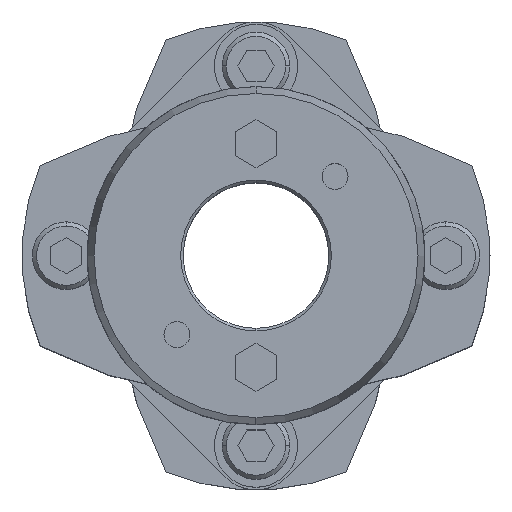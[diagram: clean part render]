
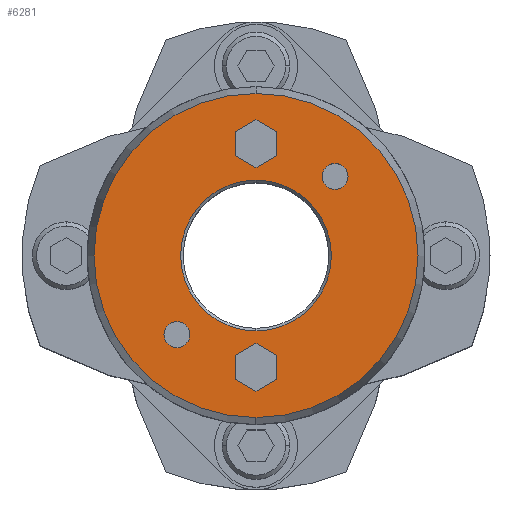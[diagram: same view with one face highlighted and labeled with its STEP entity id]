
A CAD part, top view. The second image highlights one B-rep face of the part: STEP entity #6281.
In plain terms, the highlighted planar face has unit normal (0, 0, 1).
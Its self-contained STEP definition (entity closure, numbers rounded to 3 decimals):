
#1677=CARTESIAN_POINT('',(0.,14.5,52.0));
#1678=VERTEX_POINT('',#1677);
#1694=CARTESIAN_POINT('',(0.,-14.5,52.0));
#1695=VERTEX_POINT('',#1694);
#1702=CARTESIAN_POINT('',(0.,0.,52.0));
#1703=DIRECTION('',(0.0,0.0,1.0));
#1704=DIRECTION('',(0.0,1.0,0.0));
#1705=AXIS2_PLACEMENT_3D('',#1702,#1703,#1704);
#1706=CIRCLE('',#1705,14.5);
#1707=EDGE_CURVE('',#1695,#1678,#1706,.T.);
#1823=CARTESIAN_POINT('',(0.,-31.16,52.0));
#1824=VERTEX_POINT('',#1823);
#1833=CARTESIAN_POINT('',(0.,31.16,52.0));
#1834=VERTEX_POINT('',#1833);
#1835=CARTESIAN_POINT('',(0.,0.,52.0));
#1836=DIRECTION('',(0.0,0.0,-1.0));
#1837=DIRECTION('',(0.0,-1.0,0.0));
#1838=AXIS2_PLACEMENT_3D('',#1835,#1836,#1837);
#1839=CIRCLE('',#1838,31.16);
#1840=EDGE_CURVE('',#1824,#1834,#1839,.T.);
#2157=CARTESIAN_POINT('',(15.203,17.703,52.0));
#2158=VERTEX_POINT('',#2157);
#2174=CARTESIAN_POINT('',(15.203,12.703,52.0));
#2175=VERTEX_POINT('',#2174);
#2182=CARTESIAN_POINT('',(15.203,15.203,52.0));
#2183=DIRECTION('',(0.0,0.0,-1.0));
#2184=DIRECTION('',(0.0,1.0,0.0));
#2185=AXIS2_PLACEMENT_3D('',#2182,#2183,#2184);
#2186=CIRCLE('',#2185,2.5);
#2187=EDGE_CURVE('',#2158,#2175,#2186,.T.);
#2199=CARTESIAN_POINT('',(-15.203,-12.703,52.0));
#2200=VERTEX_POINT('',#2199);
#2216=CARTESIAN_POINT('',(-15.203,-17.703,52.0));
#2217=VERTEX_POINT('',#2216);
#2224=CARTESIAN_POINT('',(-15.203,-15.203,52.0));
#2225=DIRECTION('',(0.0,0.0,-1.0));
#2226=DIRECTION('',(0.0,1.0,0.0));
#2227=AXIS2_PLACEMENT_3D('',#2224,#2225,#2226);
#2228=CIRCLE('',#2227,2.5);
#2229=EDGE_CURVE('',#2200,#2217,#2228,.T.);
#4887=CARTESIAN_POINT('',(0.,-16.881,52.0));
#4888=VERTEX_POINT('',#4887);
#4895=CARTESIAN_POINT('',(-4.,-19.191,52.0));
#4896=VERTEX_POINT('',#4895);
#4897=CARTESIAN_POINT('',(-4.,-19.191,52.0));
#4898=DIRECTION('',(0.866,0.5,0.0));
#4899=VECTOR('',#4898,4.619);
#4900=LINE('',#4897,#4899);
#4901=EDGE_CURVE('',#4896,#4888,#4900,.T.);
#4925=CARTESIAN_POINT('',(4.,-19.191,52.0));
#4926=VERTEX_POINT('',#4925);
#4933=CARTESIAN_POINT('',(0.,-16.881,52.0));
#4934=DIRECTION('',(0.866,-0.5,0.0));
#4935=VECTOR('',#4934,4.619);
#4936=LINE('',#4933,#4935);
#4937=EDGE_CURVE('',#4888,#4926,#4936,.T.);
#4956=CARTESIAN_POINT('',(4.,-23.809,52.0));
#4957=VERTEX_POINT('',#4956);
#4964=CARTESIAN_POINT('',(4.,-19.191,52.0));
#4965=DIRECTION('',(0.0,-1.0,0.0));
#4966=VECTOR('',#4965,4.619);
#4967=LINE('',#4964,#4966);
#4968=EDGE_CURVE('',#4926,#4957,#4967,.T.);
#4987=CARTESIAN_POINT('',(0.,-26.119,52.0));
#4988=VERTEX_POINT('',#4987);
#4995=CARTESIAN_POINT('',(4.,-23.809,52.0));
#4996=DIRECTION('',(-0.866,-0.5,0.0));
#4997=VECTOR('',#4996,4.619);
#4998=LINE('',#4995,#4997);
#4999=EDGE_CURVE('',#4957,#4988,#4998,.T.);
#5018=CARTESIAN_POINT('',(-4.,-23.809,52.0));
#5019=VERTEX_POINT('',#5018);
#5026=CARTESIAN_POINT('',(0.,-26.119,52.0));
#5027=DIRECTION('',(-0.866,0.5,0.0));
#5028=VECTOR('',#5027,4.619);
#5029=LINE('',#5026,#5028);
#5030=EDGE_CURVE('',#4988,#5019,#5029,.T.);
#5048=CARTESIAN_POINT('',(-4.,-23.809,52.0));
#5049=DIRECTION('',(0.0,1.0,0.0));
#5050=VECTOR('',#5049,4.619);
#5051=LINE('',#5048,#5050);
#5052=EDGE_CURVE('',#5019,#4896,#5051,.T.);
#5087=CARTESIAN_POINT('',(0.,26.119,52.0));
#5088=VERTEX_POINT('',#5087);
#5095=CARTESIAN_POINT('',(-4.,23.809,52.0));
#5096=VERTEX_POINT('',#5095);
#5097=CARTESIAN_POINT('',(-4.,23.809,52.0));
#5098=DIRECTION('',(0.866,0.5,0.0));
#5099=VECTOR('',#5098,4.619);
#5100=LINE('',#5097,#5099);
#5101=EDGE_CURVE('',#5096,#5088,#5100,.T.);
#5125=CARTESIAN_POINT('',(4.,23.809,52.0));
#5126=VERTEX_POINT('',#5125);
#5133=CARTESIAN_POINT('',(0.,26.119,52.0));
#5134=DIRECTION('',(0.866,-0.5,0.0));
#5135=VECTOR('',#5134,4.619);
#5136=LINE('',#5133,#5135);
#5137=EDGE_CURVE('',#5088,#5126,#5136,.T.);
#5156=CARTESIAN_POINT('',(4.,19.191,52.0));
#5157=VERTEX_POINT('',#5156);
#5164=CARTESIAN_POINT('',(4.,23.809,52.0));
#5165=DIRECTION('',(0.0,-1.0,0.0));
#5166=VECTOR('',#5165,4.619);
#5167=LINE('',#5164,#5166);
#5168=EDGE_CURVE('',#5126,#5157,#5167,.T.);
#5187=CARTESIAN_POINT('',(0.,16.881,52.0));
#5188=VERTEX_POINT('',#5187);
#5195=CARTESIAN_POINT('',(4.,19.191,52.0));
#5196=DIRECTION('',(-0.866,-0.5,0.0));
#5197=VECTOR('',#5196,4.619);
#5198=LINE('',#5195,#5197);
#5199=EDGE_CURVE('',#5157,#5188,#5198,.T.);
#5218=CARTESIAN_POINT('',(-4.,19.191,52.0));
#5219=VERTEX_POINT('',#5218);
#5226=CARTESIAN_POINT('',(0.,16.881,52.0));
#5227=DIRECTION('',(-0.866,0.5,0.0));
#5228=VECTOR('',#5227,4.619);
#5229=LINE('',#5226,#5228);
#5230=EDGE_CURVE('',#5188,#5219,#5229,.T.);
#5248=CARTESIAN_POINT('',(-4.,19.191,52.0));
#5249=DIRECTION('',(0.0,1.0,0.0));
#5250=VECTOR('',#5249,4.619);
#5251=LINE('',#5248,#5250);
#5252=EDGE_CURVE('',#5219,#5096,#5251,.T.);
#5278=CARTESIAN_POINT('',(-15.203,-15.203,52.0));
#5279=DIRECTION('',(0.0,0.0,-1.0));
#5280=DIRECTION('',(0.0,1.0,0.0));
#5281=AXIS2_PLACEMENT_3D('',#5278,#5279,#5280);
#5282=CIRCLE('',#5281,2.5);
#5283=EDGE_CURVE('',#2217,#2200,#5282,.T.);
#5312=CARTESIAN_POINT('',(15.203,15.203,52.0));
#5313=DIRECTION('',(0.0,0.0,-1.0));
#5314=DIRECTION('',(0.0,1.0,0.0));
#5315=AXIS2_PLACEMENT_3D('',#5312,#5313,#5314);
#5316=CIRCLE('',#5315,2.5);
#5317=EDGE_CURVE('',#2175,#2158,#5316,.T.);
#6228=CARTESIAN_POINT('',(0.,0.,52.0));
#6229=DIRECTION('',(0.0,0.0,-1.0));
#6230=DIRECTION('',(0.0,-1.0,0.0));
#6231=AXIS2_PLACEMENT_3D('',#6228,#6229,#6230);
#6232=CIRCLE('',#6231,31.16);
#6233=EDGE_CURVE('',#1834,#1824,#6232,.T.);
#6238=CARTESIAN_POINT('',(0.,2.682,52.0));
#6239=DIRECTION('',(0.0,0.0,1.0));
#6240=DIRECTION('',(0.0,1.0,0.0));
#6241=AXIS2_PLACEMENT_3D('',#6238,#6239,#6240);
#6242=PLANE('',#6241);
#6243=ORIENTED_EDGE('',*,*,#6233,.F.);
#6244=ORIENTED_EDGE('',*,*,#1840,.F.);
#6245=EDGE_LOOP('',(#6243,#6244));
#6246=FACE_OUTER_BOUND('',#6245,.T.);
#6247=ORIENTED_EDGE('',*,*,#4901,.T.);
#6248=ORIENTED_EDGE('',*,*,#4937,.T.);
#6249=ORIENTED_EDGE('',*,*,#4968,.T.);
#6250=ORIENTED_EDGE('',*,*,#4999,.T.);
#6251=ORIENTED_EDGE('',*,*,#5030,.T.);
#6252=ORIENTED_EDGE('',*,*,#5052,.T.);
#6253=EDGE_LOOP('',(#6247,#6248,#6249,#6250,#6251,#6252));
#6254=FACE_BOUND('',#6253,.T.);
#6255=ORIENTED_EDGE('',*,*,#5101,.T.);
#6256=ORIENTED_EDGE('',*,*,#5137,.T.);
#6257=ORIENTED_EDGE('',*,*,#5168,.T.);
#6258=ORIENTED_EDGE('',*,*,#5199,.T.);
#6259=ORIENTED_EDGE('',*,*,#5230,.T.);
#6260=ORIENTED_EDGE('',*,*,#5252,.T.);
#6261=EDGE_LOOP('',(#6255,#6256,#6257,#6258,#6259,#6260));
#6262=FACE_BOUND('',#6261,.T.);
#6263=ORIENTED_EDGE('',*,*,#2229,.T.);
#6264=ORIENTED_EDGE('',*,*,#5283,.T.);
#6265=EDGE_LOOP('',(#6263,#6264));
#6266=FACE_BOUND('',#6265,.T.);
#6267=ORIENTED_EDGE('',*,*,#2187,.T.);
#6268=ORIENTED_EDGE('',*,*,#5317,.T.);
#6269=EDGE_LOOP('',(#6267,#6268));
#6270=FACE_BOUND('',#6269,.T.);
#6271=ORIENTED_EDGE('',*,*,#1707,.F.);
#6272=CARTESIAN_POINT('',(0.,0.,52.0));
#6273=DIRECTION('',(0.0,0.0,1.0));
#6274=DIRECTION('',(0.0,1.0,0.0));
#6275=AXIS2_PLACEMENT_3D('',#6272,#6273,#6274);
#6276=CIRCLE('',#6275,14.5);
#6277=EDGE_CURVE('',#1678,#1695,#6276,.T.);
#6278=ORIENTED_EDGE('',*,*,#6277,.F.);
#6279=EDGE_LOOP('',(#6271,#6278));
#6280=FACE_BOUND('',#6279,.T.);
#6281=ADVANCED_FACE('',(#6246,#6254,#6262,#6266,#6270,#6280),#6242,.T.);
